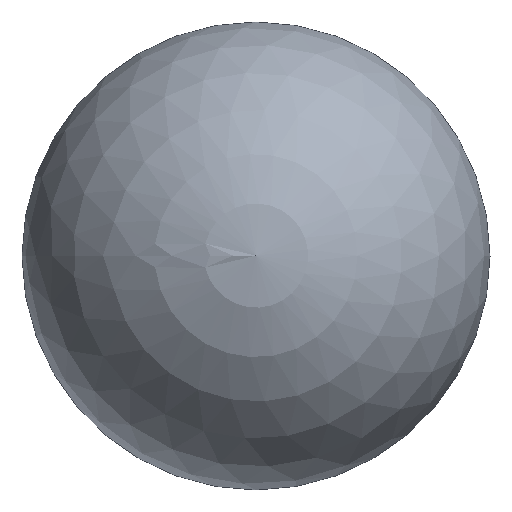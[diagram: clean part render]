
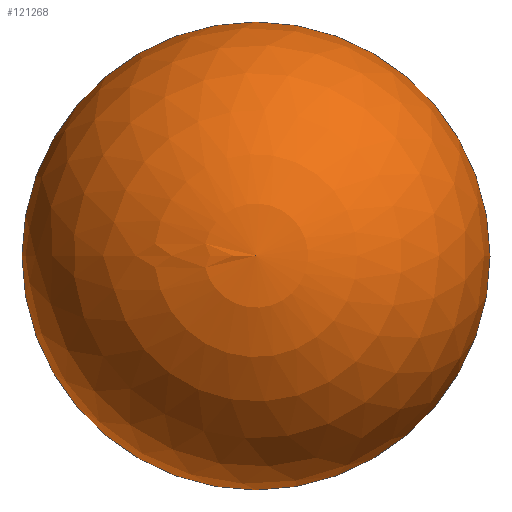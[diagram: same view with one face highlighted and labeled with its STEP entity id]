
A CAD part, top view. The second image highlights one B-rep face of the part: STEP entity #121268.
In plain terms, the highlighted spherical face has radius 2890.57 mm.
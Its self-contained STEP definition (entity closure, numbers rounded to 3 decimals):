
#11665 = ORIENTED_EDGE ( 'NONE', *, *, #131694, .T. ) ;
#11667 = ORIENTED_EDGE ( 'NONE', *, *, #131703, .F. ) ;
#30042 = EDGE_LOOP ( 'NONE', ( #11667, #11665 ) ) ;
#59791 = VERTEX_POINT ( 'NONE', #88059 ) ;
#59837 = VERTEX_POINT ( 'NONE', #88277 ) ;
#79370 = CARTESIAN_POINT ( 'NONE',  ( -850., 500., 0. ) ) ;
#79371 = DIRECTION ( 'NONE',  ( 0., 0., 1. ) ) ;
#79372 = DIRECTION ( 'NONE',  ( 1., 0., 0. ) ) ;
#79382 = CARTESIAN_POINT ( 'NONE',  ( -850., 500., 0. ) ) ;
#79383 = DIRECTION ( 'NONE',  ( 0., 0., -1. ) ) ;
#79384 = DIRECTION ( 'NONE',  ( -1., 0., 0. ) ) ;
#88059 = CARTESIAN_POINT ( 'NONE',  ( -850., 3390.566, 0. ) ) ;
#88277 = CARTESIAN_POINT ( 'NONE',  ( -850., -2390.566, 0. ) ) ;
#121268 = ADVANCED_FACE ( 'NONE', ( #203443 ), #203483, .T. ) ;
#131694 = EDGE_CURVE ( 'NONE', #59837, #59791, #160134, .T. ) ;
#131703 = EDGE_CURVE ( 'NONE', #59837, #59791, #160148, .T. ) ;
#160134 = CIRCLE ( 'NONE', #160141, 2890.566 ) ;
#160141 = AXIS2_PLACEMENT_3D ( 'NONE', #79370, #79371, #79372 ) ;
#160148 = CIRCLE ( 'NONE', #160161, 2890.566 ) ;
#160161 = AXIS2_PLACEMENT_3D ( 'NONE', #79382, #79383, #79384 ) ;
#203443 = FACE_OUTER_BOUND ( 'NONE', #30042, .T. ) ;
#203483 = SPHERICAL_SURFACE ( 'NONE', #207023, 2890.566 ) ;
#203487 = CARTESIAN_POINT ( 'NONE',  ( -850., 500., 0. ) ) ;
#203491 = DIRECTION ( 'NONE',  ( 0., 0., 1. ) ) ;
#203492 = DIRECTION ( 'NONE',  ( -1., 0., 0. ) ) ;
#207023 = AXIS2_PLACEMENT_3D ( 'NONE', #203487, #203491, #203492 ) ;
